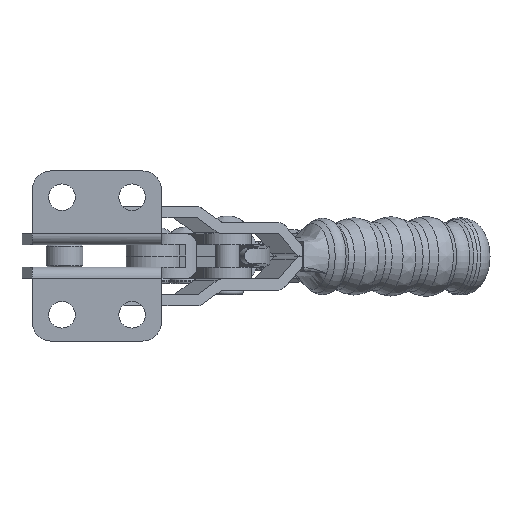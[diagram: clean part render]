
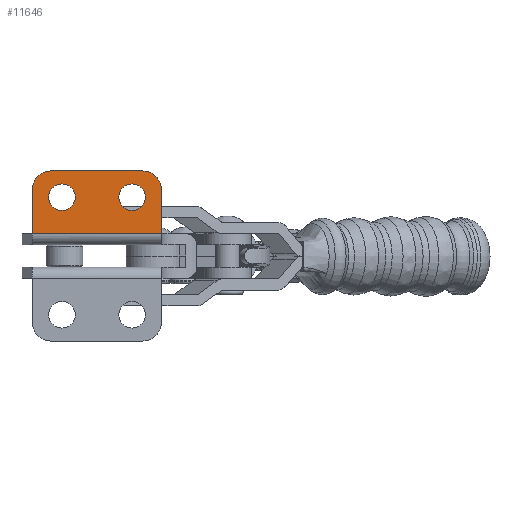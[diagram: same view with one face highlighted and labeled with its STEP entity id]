
A CAD part, front view. The second image highlights one B-rep face of the part: STEP entity #11646.
In plain terms, the highlighted planar face has unit normal (0, -1, 0).
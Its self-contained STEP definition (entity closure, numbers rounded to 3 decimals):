
#803=FACE_BOUND('',#1849,.T.);
#804=FACE_BOUND('',#1850,.T.);
#882=PLANE('',#12576);
#1188=FACE_OUTER_BOUND('',#1848,.T.);
#1848=EDGE_LOOP('',(#8053,#8054,#8055,#8056,#8057,#8058));
#1849=EDGE_LOOP('',(#8059,#8060));
#1850=EDGE_LOOP('',(#8061,#8062));
#2587=LINE('',#16333,#3566);
#2597=LINE('',#16356,#3576);
#2600=LINE('',#16361,#3579);
#2601=LINE('',#16365,#3580);
#3566=VECTOR('',#13560,1000.);
#3576=VECTOR('',#13588,1000.);
#3579=VECTOR('',#13593,1000.);
#3580=VECTOR('',#13596,1000.);
#4509=CIRCLE('',#12504,3.6);
#4510=CIRCLE('',#12505,3.6);
#4513=CIRCLE('',#12509,3.6);
#4514=CIRCLE('',#12510,3.6);
#4560=CIRCLE('',#12577,5.);
#4561=CIRCLE('',#12578,5.);
#4872=VERTEX_POINT('',#16112);
#4873=VERTEX_POINT('',#16113);
#4876=VERTEX_POINT('',#16122);
#4877=VERTEX_POINT('',#16123);
#4956=VERTEX_POINT('',#16331);
#4957=VERTEX_POINT('',#16332);
#4960=VERTEX_POINT('',#16353);
#4961=VERTEX_POINT('',#16355);
#4963=VERTEX_POINT('',#16362);
#4964=VERTEX_POINT('',#16364);
#6090=EDGE_CURVE('',#4872,#4873,#4509,.T.);
#6091=EDGE_CURVE('',#4873,#4872,#4510,.T.);
#6095=EDGE_CURVE('',#4876,#4877,#4513,.T.);
#6096=EDGE_CURVE('',#4877,#4876,#4514,.T.);
#6186=EDGE_CURVE('',#4956,#4957,#2587,.T.);
#6198=EDGE_CURVE('',#4961,#4960,#2597,.T.);
#6201=EDGE_CURVE('',#4960,#4957,#2600,.T.);
#6202=EDGE_CURVE('',#4956,#4963,#4560,.T.);
#6203=EDGE_CURVE('',#4964,#4963,#2601,.T.);
#6204=EDGE_CURVE('',#4964,#4961,#4561,.T.);
#8053=ORIENTED_EDGE('',*,*,#6198,.T.);
#8054=ORIENTED_EDGE('',*,*,#6201,.T.);
#8055=ORIENTED_EDGE('',*,*,#6186,.F.);
#8056=ORIENTED_EDGE('',*,*,#6202,.T.);
#8057=ORIENTED_EDGE('',*,*,#6203,.F.);
#8058=ORIENTED_EDGE('',*,*,#6204,.T.);
#8059=ORIENTED_EDGE('',*,*,#6095,.T.);
#8060=ORIENTED_EDGE('',*,*,#6096,.T.);
#8061=ORIENTED_EDGE('',*,*,#6090,.T.);
#8062=ORIENTED_EDGE('',*,*,#6091,.T.);
#11646=ADVANCED_FACE('',(#1188,#803,#804),#882,.F.);
#12504=AXIS2_PLACEMENT_3D('',#16114,#13392,#13393);
#12505=AXIS2_PLACEMENT_3D('',#16115,#13394,#13395);
#12509=AXIS2_PLACEMENT_3D('',#16124,#13403,#13404);
#12510=AXIS2_PLACEMENT_3D('',#16125,#13405,#13406);
#12576=AXIS2_PLACEMENT_3D('',#16360,#13591,#13592);
#12577=AXIS2_PLACEMENT_3D('',#16363,#13594,#13595);
#12578=AXIS2_PLACEMENT_3D('',#16366,#13597,#13598);
#13392=DIRECTION('center_axis',(0.,1.,0.));
#13393=DIRECTION('ref_axis',(-1.,0.,0.));
#13394=DIRECTION('center_axis',(0.,1.,0.));
#13395=DIRECTION('ref_axis',(-1.,0.,0.));
#13403=DIRECTION('center_axis',(0.,1.,0.));
#13404=DIRECTION('ref_axis',(-1.,0.,0.));
#13405=DIRECTION('center_axis',(0.,1.,0.));
#13406=DIRECTION('ref_axis',(-1.,0.,0.));
#13560=DIRECTION('',(0.,0.,-1.));
#13588=DIRECTION('',(0.,0.,-1.));
#13591=DIRECTION('center_axis',(0.,1.,0.));
#13592=DIRECTION('ref_axis',(-1.,0.,0.));
#13593=DIRECTION('',(1.,0.,0.));
#13594=DIRECTION('center_axis',(0.,-1.,0.));
#13595=DIRECTION('ref_axis',(-1.,0.,0.));
#13596=DIRECTION('',(1.,0.,0.));
#13597=DIRECTION('center_axis',(0.,-1.,0.));
#13598=DIRECTION('ref_axis',(-1.,0.,0.));
#16112=CARTESIAN_POINT('',(-30.5,0.,21.9));
#16113=CARTESIAN_POINT('',(-23.3,0.,21.9));
#16114=CARTESIAN_POINT('Origin',(-26.9,0.,21.9));
#16115=CARTESIAN_POINT('Origin',(-26.9,0.,21.9));
#16122=CARTESIAN_POINT('',(-11.5,0.,21.9));
#16123=CARTESIAN_POINT('',(-4.3,0.,21.9));
#16124=CARTESIAN_POINT('Origin',(-7.9,0.,21.9));
#16125=CARTESIAN_POINT('Origin',(-7.9,0.,21.9));
#16331=CARTESIAN_POINT('',(0.,0.,24.));
#16332=CARTESIAN_POINT('',(0.,0.,12.));
#16333=CARTESIAN_POINT('',(0.,0.,12.));
#16353=CARTESIAN_POINT('',(-34.9,0.,12.));
#16355=CARTESIAN_POINT('',(-34.9,0.,24.));
#16356=CARTESIAN_POINT('',(-34.9,0.,12.));
#16360=CARTESIAN_POINT('Origin',(0.,0.,12.));
#16361=CARTESIAN_POINT('',(0.,0.,12.));
#16362=CARTESIAN_POINT('',(-5.,0.,29.));
#16363=CARTESIAN_POINT('Origin',(-5.,0.,24.));
#16364=CARTESIAN_POINT('',(-29.9,0.,29.));
#16365=CARTESIAN_POINT('',(-34.9,0.,29.));
#16366=CARTESIAN_POINT('Origin',(-29.9,0.,24.));
